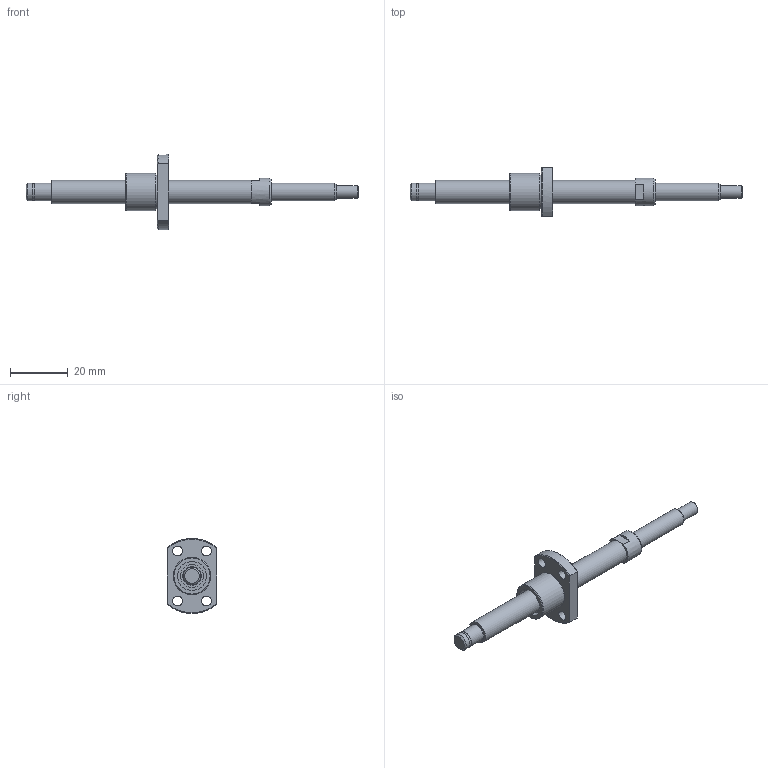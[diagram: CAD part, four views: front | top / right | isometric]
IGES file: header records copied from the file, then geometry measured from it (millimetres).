
Start section: Data from Parasolid IGES Translator 26.0.171, Copyright(c) 2006 Siemens PLM Software. All Rights Reserved.
Global section: file name: BNK0801-3G0+115LC5Y(40.5).igs; native system: By Siemens PLM Incorporated; preprocessor: XPlus GENERIC/IGES 26.0.171; author: Noname; organization: Noname; date: 20240709.082911; units: millimetre
Bounding box: 115 x 17 x 26 mm (x, y, z)
Surface area: 4755 mm2 (no closed solid volume)
Topology: 0 solids, 0 shells, 53 faces, 224 edges, 193 vertices
Faces by surface type: revolution 32, extrusion 21
